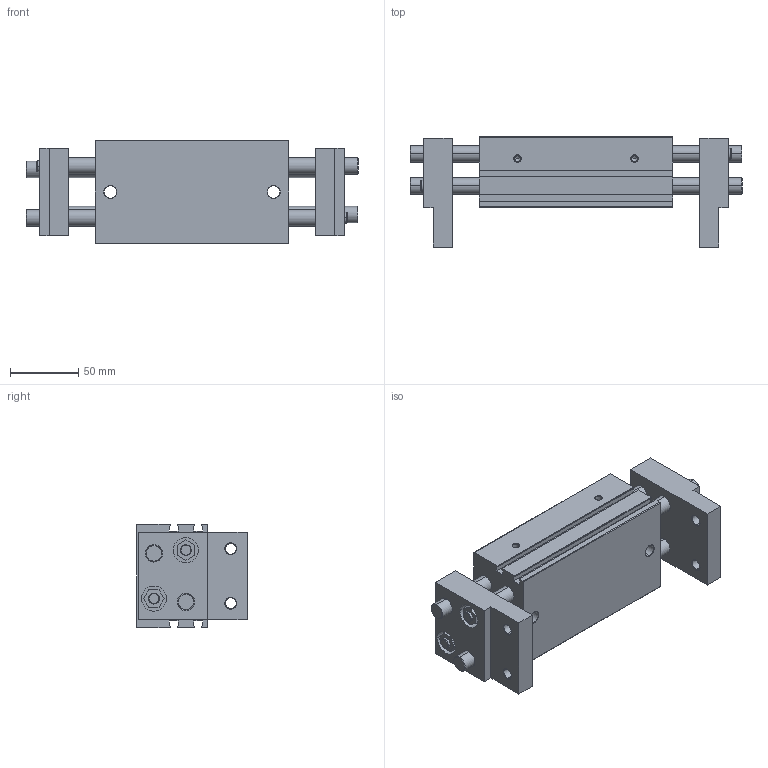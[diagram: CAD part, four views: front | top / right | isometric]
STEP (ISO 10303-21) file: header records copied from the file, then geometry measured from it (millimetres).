
FILE_DESCRIPTION (( 'STEP AP203' ), '1' );
FILE_NAME ('CHL2-25D1.STEP', '2017-06-06T20:12:44', ( '' ), ( '' ), 'SwSTEP 2.0', 'SolidWorks 2016', '' );
FILE_SCHEMA (( 'CONFIG_CONTROL_DESIGN' ));
Length unit declared in the file: millimetre
Products named in the file (3): CHL2-25D1 DEDO; CHL2-25D1; CHL2-25D1 CORPO
Assembly tree (3 placements, depth 2):
  CHL2-25D1
    CHL2-25D1 CORPO
    CHL2-25D1 DEDO  x2
Bounding box: 244 x 81 x 76 mm (x, y, z)
Volume: 719467.1 mm3; surface area: 150778.5 mm2
Topology: 3 solids, 3 shells, 347 faces, 805 edges, 499 vertices
Faces by surface type: cylinder 127, plane 125, cone 95
Entity records: 7779 total; most frequent: DIRECTION 1394, CARTESIAN_POINT 1247, ORIENTED_EDGE 1198, EDGE_CURVE 599, AXIS2_PLACEMENT_3D 526, VERTEX_POINT 379, VECTOR 342, LINE 342
